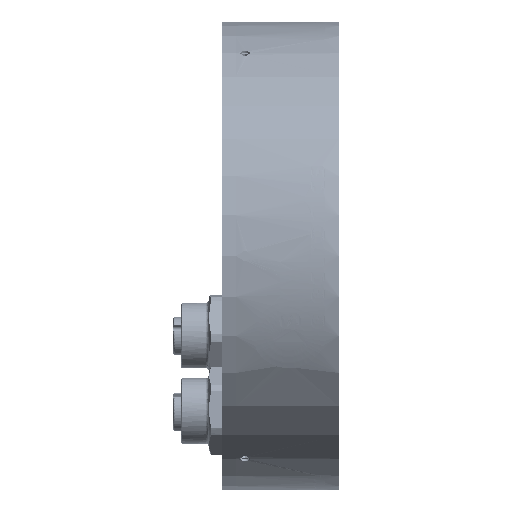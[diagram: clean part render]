
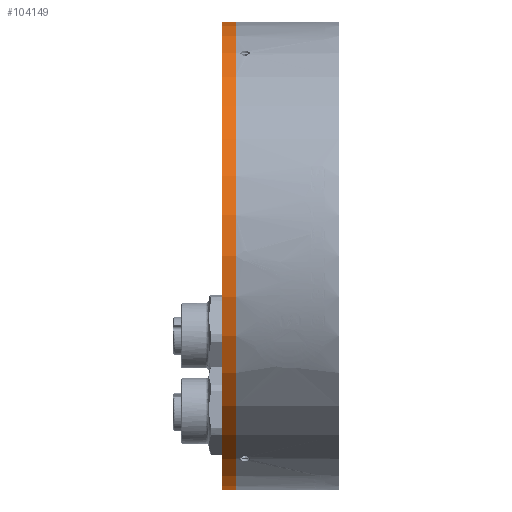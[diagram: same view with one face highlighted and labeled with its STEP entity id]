
A CAD part, front view. The second image highlights one B-rep face of the part: STEP entity #104149.
In plain terms, the highlighted cylindrical face has radius 50 mm (diameter 100 mm), a partial arc.
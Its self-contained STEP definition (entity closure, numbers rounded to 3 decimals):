
#7605 = DIRECTION ( 'NONE',  ( -1., 0., 0. ) ) ;
#17340 = CYLINDRICAL_SURFACE ( 'NONE', #112945, 50. ) ;
#23344 = CARTESIAN_POINT ( 'NONE',  ( 6., 0., 50. ) ) ;
#42135 = DIRECTION ( 'NONE',  ( -1., 0., 0. ) ) ;
#59325 = ORIENTED_EDGE ( 'NONE', *, *, #100781, .T. ) ;
#65711 = DIRECTION ( 'NONE',  ( 0., 0., 1. ) ) ;
#78251 = VECTOR ( 'NONE', #42135, 1000. ) ;
#81859 = VERTEX_POINT ( 'NONE', #247715 ) ;
#92370 = EDGE_LOOP ( 'NONE', ( #235402, #224222, #59325, #219552 ) ) ;
#97059 = EDGE_CURVE ( 'NONE', #234123, #272778, #263983, .T. ) ;
#100781 = EDGE_CURVE ( 'NONE', #226053, #81859, #212290, .T. ) ;
#104149 = ADVANCED_FACE ( 'NONE', ( #135954 ), #17340, .T. ) ;
#112945 = AXIS2_PLACEMENT_3D ( 'NONE', #207837, #279705, #65711 ) ;
#114624 = VECTOR ( 'NONE', #293633, 1000. ) ;
#130827 = DIRECTION ( 'NONE',  ( -1., 0., 0. ) ) ;
#133867 = DIRECTION ( 'NONE',  ( 0., 0., 1. ) ) ;
#135954 = FACE_OUTER_BOUND ( 'NONE', #92370, .T. ) ;
#136960 = CARTESIAN_POINT ( 'NONE',  ( 0., 0., 50. ) ) ;
#155963 = CARTESIAN_POINT ( 'NONE',  ( -3., 0., -50. ) ) ;
#156105 = CIRCLE ( 'NONE', #161002, 50. ) ;
#158681 = CIRCLE ( 'NONE', #253489, 50. ) ;
#161002 = AXIS2_PLACEMENT_3D ( 'NONE', #273053, #130827, #133867 ) ;
#169648 = EDGE_CURVE ( 'NONE', #272778, #81859, #158681, .T. ) ;
#207837 = CARTESIAN_POINT ( 'NONE',  ( 6., 0., 0. ) ) ;
#212290 = LINE ( 'NONE', #23344, #78251 ) ;
#219552 = ORIENTED_EDGE ( 'NONE', *, *, #169648, .F. ) ;
#224222 = ORIENTED_EDGE ( 'NONE', *, *, #259330, .T. ) ;
#226053 = VERTEX_POINT ( 'NONE', #136960 ) ;
#226110 = DIRECTION ( 'NONE',  ( 0., 0., 1. ) ) ;
#234123 = VERTEX_POINT ( 'NONE', #272879 ) ;
#235402 = ORIENTED_EDGE ( 'NONE', *, *, #97059, .F. ) ;
#247715 = CARTESIAN_POINT ( 'NONE',  ( -3., 0., 50. ) ) ;
#253489 = AXIS2_PLACEMENT_3D ( 'NONE', #299514, #7605, #226110 ) ;
#259330 = EDGE_CURVE ( 'NONE', #234123, #226053, #156105, .T. ) ;
#263983 = LINE ( 'NONE', #268631, #114624 ) ;
#268631 = CARTESIAN_POINT ( 'NONE',  ( 6., 0., -50. ) ) ;
#272778 = VERTEX_POINT ( 'NONE', #155963 ) ;
#272879 = CARTESIAN_POINT ( 'NONE',  ( 0., 0., -50. ) ) ;
#273053 = CARTESIAN_POINT ( 'NONE',  ( 0., 0., 0. ) ) ;
#279705 = DIRECTION ( 'NONE',  ( -1., 0., 0. ) ) ;
#293633 = DIRECTION ( 'NONE',  ( -1., 0., 0. ) ) ;
#299514 = CARTESIAN_POINT ( 'NONE',  ( -3., 0., 0. ) ) ;
